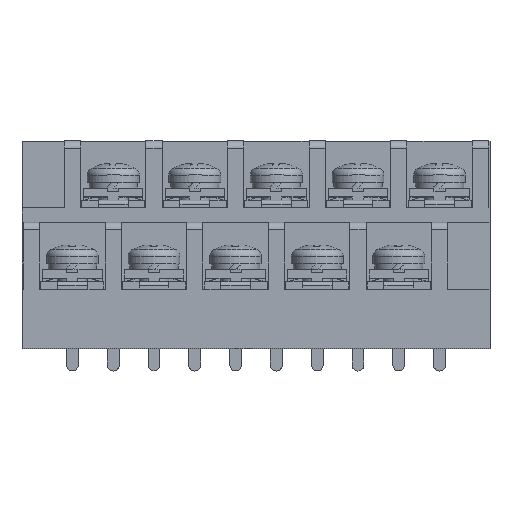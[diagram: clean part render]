
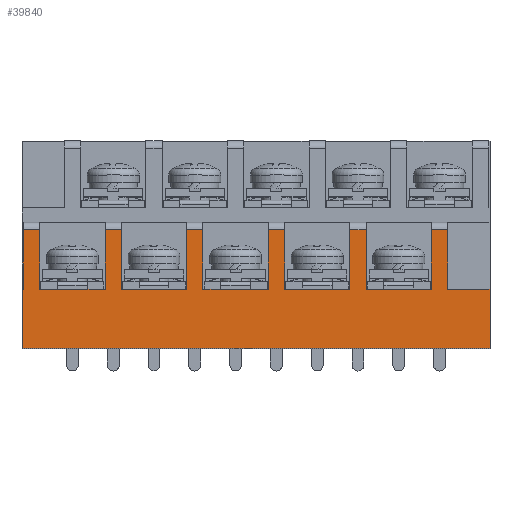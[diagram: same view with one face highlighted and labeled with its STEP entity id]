
A CAD part, top view. The second image highlights one B-rep face of the part: STEP entity #39840.
In plain terms, the highlighted planar face has unit normal (0, 0, 1).
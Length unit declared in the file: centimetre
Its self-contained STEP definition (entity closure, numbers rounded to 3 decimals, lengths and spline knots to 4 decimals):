
#1669=VECTOR('',#41792,1.);
#1725=VECTOR('',#41888,1.);
#1730=VECTOR('',#41900,1.);
#1732=VECTOR('',#41903,1.);
#1734=VECTOR('',#41906,1.);
#1929=VECTOR('',#42294,1.);
#2090=VECTOR('',#42643,1.);
#2092=VECTOR('',#42649,1.);
#2094=VECTOR('',#42652,1.);
#2264=VECTOR('',#43015,1.);
#2425=VECTOR('',#43364,1.);
#2427=VECTOR('',#43370,1.);
#2448=VECTOR('',#43393,1.);
#2475=VECTOR('',#43437,1.);
#2478=VECTOR('',#43446,1.);
#2481=VECTOR('',#43450,1.);
#2635=VECTOR('',#43790,1.);
#2790=VECTOR('',#44138,1.);
#2793=VECTOR('',#44147,1.);
#2796=VECTOR('',#44151,1.);
#2950=VECTOR('',#44491,1.);
#3116=VECTOR('',#44844,1.);
#3506=VECTOR('',#45372,1.);
#3507=VECTOR('',#45374,1.);
#3508=VECTOR('',#45375,1.);
#3509=VECTOR('',#45376,1.);
#3510=VECTOR('',#45377,1.);
#3511=VECTOR('',#45378,1.);
#6096=LINE('',#49308,#1669);
#6152=LINE('',#49441,#1725);
#6157=LINE('',#49456,#1730);
#6159=LINE('',#49459,#1732);
#6161=LINE('',#49464,#1734);
#6356=LINE('',#50013,#1929);
#6517=LINE('',#50493,#2090);
#6519=LINE('',#50499,#2092);
#6521=LINE('',#50504,#2094);
#6691=LINE('',#51003,#2264);
#6852=LINE('',#51483,#2425);
#6854=LINE('',#51489,#2427);
#6875=LINE('',#51532,#2448);
#6902=LINE('',#51591,#2475);
#6905=LINE('',#51601,#2478);
#6908=LINE('',#51606,#2481);
#7062=LINE('',#52070,#2635);
#7217=LINE('',#52540,#2790);
#7220=LINE('',#52550,#2793);
#7223=LINE('',#52555,#2796);
#7377=LINE('',#53019,#2950);
#7543=LINE('',#53566,#3116);
#7933=LINE('',#54982,#3506);
#7934=LINE('',#54984,#3507);
#7935=LINE('',#54985,#3508);
#7936=LINE('',#54986,#3509);
#7937=LINE('',#54988,#3510);
#7938=LINE('',#54990,#3511);
#11063=PLANE('',#65238);
#12477=VERTEX_POINT('',#49303);
#12479=VERTEX_POINT('',#49307);
#12523=VERTEX_POINT('',#49435);
#12526=VERTEX_POINT('',#49440);
#12529=VERTEX_POINT('',#49450);
#12532=VERTEX_POINT('',#49455);
#12533=VERTEX_POINT('',#49462);
#12714=VERTEX_POINT('',#50007);
#12717=VERTEX_POINT('',#50012);
#12868=VERTEX_POINT('',#50492);
#12870=VERTEX_POINT('',#50498);
#12871=VERTEX_POINT('',#50502);
#13027=VERTEX_POINT('',#50997);
#13030=VERTEX_POINT('',#51002);
#13181=VERTEX_POINT('',#51482);
#13183=VERTEX_POINT('',#51488);
#13203=VERTEX_POINT('',#51531);
#13204=VERTEX_POINT('',#51533);
#13225=VERTEX_POINT('',#51592);
#13227=VERTEX_POINT('',#51598);
#13229=VERTEX_POINT('',#51604);
#13517=VERTEX_POINT('',#52541);
#13519=VERTEX_POINT('',#52547);
#13521=VERTEX_POINT('',#52553);
#13833=VERTEX_POINT('',#53567);
#14144=VERTEX_POINT('',#54981);
#14145=VERTEX_POINT('',#54987);
#14146=VERTEX_POINT('',#54989);
#16615=EDGE_CURVE('',#12479,#12477,#6096,.T.);
#16683=EDGE_CURVE('',#12526,#12523,#6152,.T.);
#16690=EDGE_CURVE('',#12532,#12529,#6157,.T.);
#16692=EDGE_CURVE('',#12526,#12529,#6159,.T.);
#16694=EDGE_CURVE('',#12533,#12532,#6161,.T.);
#16958=EDGE_CURVE('',#12717,#12714,#6356,.T.);
#17188=EDGE_CURVE('',#12717,#12868,#6517,.T.);
#17191=EDGE_CURVE('',#12870,#12868,#6519,.T.);
#17193=EDGE_CURVE('',#12871,#12870,#6521,.T.);
#17432=EDGE_CURVE('',#13030,#13027,#6691,.T.);
#17662=EDGE_CURVE('',#13030,#13181,#6852,.T.);
#17665=EDGE_CURVE('',#13183,#13181,#6854,.T.);
#17686=EDGE_CURVE('',#13204,#13203,#6875,.T.);
#17717=EDGE_CURVE('',#13027,#13225,#6902,.T.);
#17722=EDGE_CURVE('',#13225,#13227,#6905,.T.);
#17725=EDGE_CURVE('',#13229,#13227,#6908,.T.);
#17947=EDGE_CURVE('',#13229,#12871,#7062,.T.);
#18171=EDGE_CURVE('',#12714,#13517,#7217,.T.);
#18176=EDGE_CURVE('',#13517,#13519,#7220,.T.);
#18179=EDGE_CURVE('',#13521,#13519,#7223,.T.);
#18401=EDGE_CURVE('',#13521,#12533,#7377,.T.);
#18649=EDGE_CURVE('',#13833,#13204,#7543,.T.);
#19130=EDGE_CURVE('',#13833,#14144,#7933,.T.);
#19131=EDGE_CURVE('',#13203,#12523,#7934,.T.);
#19132=EDGE_CURVE('',#12477,#13183,#7935,.T.);
#19133=EDGE_CURVE('',#12479,#14145,#7936,.T.);
#19134=EDGE_CURVE('',#14146,#14145,#7937,.T.);
#19135=EDGE_CURVE('',#14144,#14146,#7938,.T.);
#27921=ORIENTED_EDGE('',*,*,#17686,.T.);
#27922=ORIENTED_EDGE('',*,*,#19131,.T.);
#27923=ORIENTED_EDGE('',*,*,#16683,.F.);
#27924=ORIENTED_EDGE('',*,*,#16692,.T.);
#27925=ORIENTED_EDGE('',*,*,#16690,.F.);
#27926=ORIENTED_EDGE('',*,*,#16694,.F.);
#27927=ORIENTED_EDGE('',*,*,#18401,.F.);
#27928=ORIENTED_EDGE('',*,*,#18179,.T.);
#27929=ORIENTED_EDGE('',*,*,#18176,.F.);
#27930=ORIENTED_EDGE('',*,*,#18171,.F.);
#27931=ORIENTED_EDGE('',*,*,#16958,.F.);
#27932=ORIENTED_EDGE('',*,*,#17188,.T.);
#27933=ORIENTED_EDGE('',*,*,#17191,.F.);
#27934=ORIENTED_EDGE('',*,*,#17193,.F.);
#27935=ORIENTED_EDGE('',*,*,#17947,.F.);
#27936=ORIENTED_EDGE('',*,*,#17725,.T.);
#27937=ORIENTED_EDGE('',*,*,#17722,.F.);
#27938=ORIENTED_EDGE('',*,*,#17717,.F.);
#27939=ORIENTED_EDGE('',*,*,#17432,.F.);
#27940=ORIENTED_EDGE('',*,*,#17662,.T.);
#27941=ORIENTED_EDGE('',*,*,#17665,.F.);
#27942=ORIENTED_EDGE('',*,*,#19132,.F.);
#27943=ORIENTED_EDGE('',*,*,#16615,.F.);
#27944=ORIENTED_EDGE('',*,*,#19133,.T.);
#27945=ORIENTED_EDGE('',*,*,#19134,.F.);
#27946=ORIENTED_EDGE('',*,*,#19135,.F.);
#27947=ORIENTED_EDGE('',*,*,#19130,.F.);
#27948=ORIENTED_EDGE('',*,*,#18649,.T.);
#35087=EDGE_LOOP('',(#27921,#27922,#27923,#27924,#27925,#27926,#27927,#27928,
#27929,#27930,#27931,#27932,#27933,#27934,#27935,#27936,#27937,#27938,#27939,
#27940,#27941,#27942,#27943,#27944,#27945,#27946,#27947,#27948));
#37531=FACE_BOUND('',#35087,.T.);
#39840=ADVANCED_FACE('',(#37531),#11063,.T.);
#41792=DIRECTION('',(1.,0.,0.));
#41888=DIRECTION('',(1.,0.,0.));
#41900=DIRECTION('',(1.,0.,0.));
#41903=DIRECTION('',(0.,1.,0.));
#41906=DIRECTION('',(0.,1.,0.));
#42294=DIRECTION('',(1.,0.,0.));
#42643=DIRECTION('',(0.,1.,0.));
#42649=DIRECTION('',(1.,0.,0.));
#42652=DIRECTION('',(0.,1.,0.));
#43015=DIRECTION('',(1.,0.,0.));
#43364=DIRECTION('',(0.,1.,0.));
#43370=DIRECTION('',(1.,0.,0.));
#43393=DIRECTION('',(1.,0.,0.));
#43437=DIRECTION('',(0.,1.,0.));
#43446=DIRECTION('',(1.,0.,0.));
#43450=DIRECTION('',(0.,1.,0.));
#43790=DIRECTION('',(1.,0.,0.));
#44138=DIRECTION('',(0.,1.,0.));
#44147=DIRECTION('',(1.,0.,0.));
#44151=DIRECTION('',(0.,1.,0.));
#44491=DIRECTION('',(1.,0.,0.));
#44844=DIRECTION('',(0.,-1.,0.));
#45372=DIRECTION('',(1.,0.,0.));
#45373=DIRECTION('',(0.,0.,1.));
#45374=DIRECTION('',(0.,1.,0.));
#45375=DIRECTION('',(0.,1.,0.));
#45376=DIRECTION('',(0.,1.,0.));
#45377=DIRECTION('',(1.,0.,0.));
#45378=DIRECTION('',(0.,1.,0.));
#49303=CARTESIAN_POINT('',(-0.55,0.8,2.35));
#49307=CARTESIAN_POINT('',(-1.43,0.8,2.35));
#49308=CARTESIAN_POINT('',(-1.43,0.8,2.35));
#49435=CARTESIAN_POINT('',(4.64,0.8,2.35));
#49440=CARTESIAN_POINT('',(4.07,0.8,2.35));
#49441=CARTESIAN_POINT('',(4.07,0.8,2.35));
#49450=CARTESIAN_POINT('',(4.07,1.6,2.35));
#49455=CARTESIAN_POINT('',(3.85,1.6,2.35));
#49456=CARTESIAN_POINT('',(3.85,1.6,2.35));
#49459=CARTESIAN_POINT('',(4.07,0.,2.35));
#49462=CARTESIAN_POINT('',(3.85,0.8,2.35));
#49464=CARTESIAN_POINT('',(3.85,0.,2.35));
#50007=CARTESIAN_POINT('',(2.75,0.8,2.35));
#50012=CARTESIAN_POINT('',(1.87,0.8,2.35));
#50013=CARTESIAN_POINT('',(1.87,0.8,2.35));
#50492=CARTESIAN_POINT('',(1.87,1.6,2.35));
#50493=CARTESIAN_POINT('',(1.87,0.,2.35));
#50498=CARTESIAN_POINT('',(1.65,1.6,2.35));
#50499=CARTESIAN_POINT('',(1.65,1.6,2.35));
#50502=CARTESIAN_POINT('',(1.65,0.8,2.35));
#50504=CARTESIAN_POINT('',(1.65,0.,2.35));
#50997=CARTESIAN_POINT('',(0.55,0.8,2.35));
#51002=CARTESIAN_POINT('',(-0.33,0.8,2.35));
#51003=CARTESIAN_POINT('',(-0.33,0.8,2.35));
#51482=CARTESIAN_POINT('',(-0.33,1.6,2.35));
#51483=CARTESIAN_POINT('',(-0.33,0.,2.35));
#51488=CARTESIAN_POINT('',(-0.55,1.6,2.35));
#51489=CARTESIAN_POINT('',(-0.55,1.6,2.35));
#51531=CARTESIAN_POINT('',(4.64,0.,2.35));
#51532=CARTESIAN_POINT('',(-1.67,0.,2.35));
#51533=CARTESIAN_POINT('',(-1.67,0.,2.35));
#51591=CARTESIAN_POINT('',(0.55,0.,2.35));
#51592=CARTESIAN_POINT('',(0.55,1.6,2.35));
#51598=CARTESIAN_POINT('',(0.77,1.6,2.35));
#51601=CARTESIAN_POINT('',(0.55,1.6,2.35));
#51604=CARTESIAN_POINT('',(0.77,0.8,2.35));
#51606=CARTESIAN_POINT('',(0.77,0.,2.35));
#52070=CARTESIAN_POINT('',(0.77,0.8,2.35));
#52540=CARTESIAN_POINT('',(2.75,0.,2.35));
#52541=CARTESIAN_POINT('',(2.75,1.6,2.35));
#52547=CARTESIAN_POINT('',(2.97,1.6,2.35));
#52550=CARTESIAN_POINT('',(2.75,1.6,2.35));
#52553=CARTESIAN_POINT('',(2.97,0.8,2.35));
#52555=CARTESIAN_POINT('',(2.97,0.,2.35));
#53019=CARTESIAN_POINT('',(2.97,0.8,2.35));
#53566=CARTESIAN_POINT('',(-1.67,0.8,2.35));
#53567=CARTESIAN_POINT('',(-1.67,0.8,2.35));
#54981=CARTESIAN_POINT('',(-1.65,0.8,2.35));
#54982=CARTESIAN_POINT('',(-1.67,0.8,2.35));
#54983=CARTESIAN_POINT('',(-1.67,0.4,2.35));
#54984=CARTESIAN_POINT('',(4.64,0.8,2.35));
#54985=CARTESIAN_POINT('',(-0.55,0.,2.35));
#54986=CARTESIAN_POINT('',(-1.43,0.,2.35));
#54987=CARTESIAN_POINT('',(-1.43,1.6,2.35));
#54988=CARTESIAN_POINT('',(-1.65,1.6,2.35));
#54989=CARTESIAN_POINT('',(-1.65,1.6,2.35));
#54990=CARTESIAN_POINT('',(-1.65,0.,2.35));
#65238=AXIS2_PLACEMENT_3D('',#54983,#45373,$);
